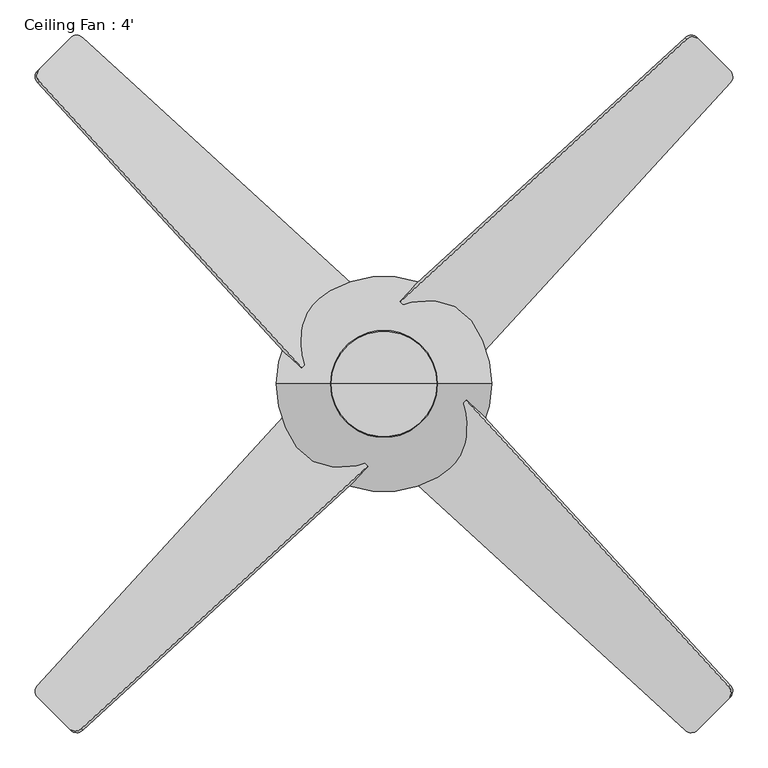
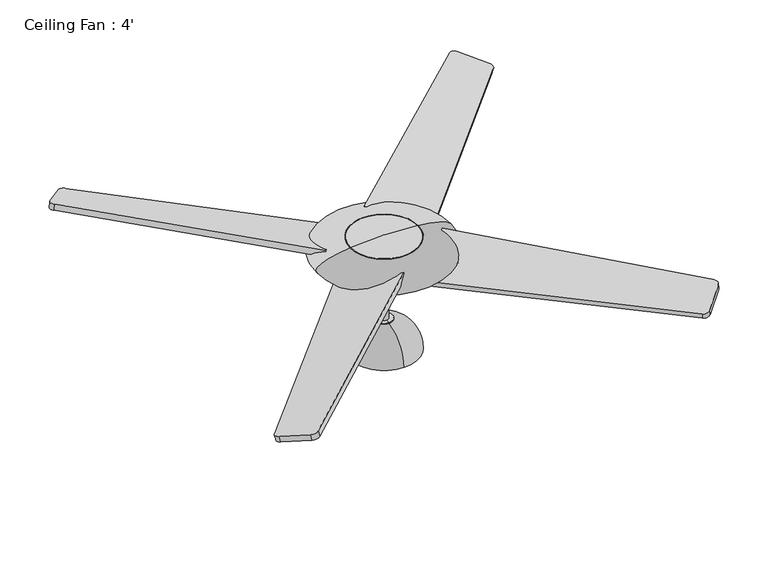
"""IFC4 building model written with IfcOpenShell, lengths in millimetres: light fixture geometry, Ceiling Fan : 4'."""

from ifc_helpers import new_model, si_unit, point, frame, frame_2d, origin, origin_2d, place, context, project, spatial, polyline, circle_curve, ellipse_curve, trimmed, segment, composite_curve, outline, extrude, source, transform, mapped, element, save
from ifc_brep_helpers import plane_surface, cylinder_surface, revolved_surface, advanced_brep


def ceiling_fan_4_278a9ec8(model_context):
    return source(origin(), model_context, "Body", "SolidModel", [
        extrude(outline(composite_curve([segment(trimmed(circle_curve(frame_2d((76.7615117, -12.7)), 12.7), [point((76.7615117, 0.0))], [point((89.4485376, -12.1260879))], False, "CARTESIAN"), True, "CONTINUOUS"), segment(polyline([(89.4485376, -12.1260879), (114.3000001, -561.4978402), (-25.4, -561.4978402), (-0.5485375, -12.1260879)]), True, "CONTINUOUS"), segment(trimmed(circle_curve(frame_2d((12.1384884, -12.7)), 12.7), [point((-0.5485375, -12.1260879))], [point((12.1384884, 0.0))], False, "CARTESIAN"), True, "CONTINUOUS"), segment(polyline([(12.1384884, 0.0), (76.7615117, 0.0)]), True, "CONTINUOUS")], self_intersect=False)), frame((-498.5568431, 435.3897935, 237.8624912), z_axis=(0.17106461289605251, 0.17106461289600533, 0.9702957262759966), x_axis=(0.6861026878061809, 0.6861026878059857, -0.24192189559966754)), (0.0, 0.0, 1.0), 12.7),
        extrude(outline(composite_curve([segment(trimmed(circle_curve(frame_2d((76.7615117, -12.7)), 12.7), [point((76.7615117, 0.0))], [point((89.4485376, -12.1260879))], False, "CARTESIAN"), True, "CONTINUOUS"), segment(polyline([(89.4485376, -12.1260879), (114.3000001, -561.4978402), (-25.4, -561.4978402), (-0.5485375, -12.1260879)]), True, "CONTINUOUS"), segment(trimmed(circle_curve(frame_2d((12.1384884, -12.7)), 12.7), [point((-0.5485375, -12.1260879))], [point((12.1384884, 0.0))], False, "CARTESIAN"), True, "CONTINUOUS"), segment(polyline([(12.1384884, 0.0), (76.7615117, 0.0)]), True, "CONTINUOUS")], self_intersect=False)), frame((-435.3897935, -498.5568431, 237.8624912), z_axis=(-0.17106461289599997, 0.17106461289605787, 0.9702957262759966), x_axis=(-0.6861026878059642, 0.6861026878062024, -0.24192189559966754)), (0.0, 0.0, 1.0), 12.7),
        extrude(outline(composite_curve([segment(trimmed(circle_curve(frame_2d((76.7615117, -12.7)), 12.7), [point((76.7615117, 0.0))], [point((89.4485376, -12.1260879))], False, "CARTESIAN"), True, "CONTINUOUS"), segment(polyline([(89.4485376, -12.1260879), (114.3000001, -561.4978402), (-25.4, -561.4978402), (-0.5485375, -12.1260879)]), True, "CONTINUOUS"), segment(trimmed(circle_curve(frame_2d((12.1384884, -12.7)), 12.7), [point((-0.5485375, -12.1260879))], [point((12.1384884, 0.0))], False, "CARTESIAN"), True, "CONTINUOUS"), segment(polyline([(12.1384884, 0.0), (76.7615117, 0.0)]), True, "CONTINUOUS")], self_intersect=False)), frame((498.5568431, -435.3897935, 237.8624912), z_axis=(-0.1710646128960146, -0.17106461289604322, 0.9702957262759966), x_axis=(-0.6861026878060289, -0.6861026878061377, -0.24192189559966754)), (0.0, 0.0, 1.0), 12.7),
        extrude(outline(composite_curve([segment(trimmed(circle_curve(frame_2d((76.7615117, -12.7)), 12.7), [point((76.7615117, 0.0))], [point((89.4485376, -12.1260879))], False, "CARTESIAN"), True, "CONTINUOUS"), segment(polyline([(89.4485376, -12.1260879), (114.3000001, -561.4978402), (-25.4, -561.4978402), (-0.5485375, -12.1260879)]), True, "CONTINUOUS"), segment(trimmed(circle_curve(frame_2d((12.1384884, -12.7)), 12.7), [point((-0.5485375, -12.1260879))], [point((12.1384884, 0.0))], False, "CARTESIAN"), True, "CONTINUOUS"), segment(polyline([(12.1384884, 0.0), (76.7615117, 0.0)]), True, "CONTINUOUS")], self_intersect=False)), frame((435.3897935, 498.5568431, 237.8624912), z_axis=(0.1710646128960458, -0.17106461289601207, 0.9702957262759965), x_axis=(0.686102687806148, -0.6861026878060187, -0.2419218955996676)), (0.0, 0.0, 1.0), 12.7),
        advanced_brep(
        [(74.6125, 0.0, 254.0), (-74.6125, 0.0, 254.0), (0.0, 0.0, 254.0), (74.6125, 0.0, 262.6366089), (-74.6125, 0.0, 262.6366089), (0.0, 0.0, 266.7)],
        [
            (0, 1, circle_curve(frame((0.0, 0.0, 254.0), z_axis=(0.0, 0.0, -1.0), x_axis=(-1.0, 0.0, 0.0)), 74.6125)),
            (1, 2),
            (2, 0),
            (1, 0, circle_curve(frame((0.0, 0.0, 254.0), z_axis=(0.0, 0.0, -1.0), x_axis=(-1.0, 0.0, 0.0)), 74.6125)),
            (3, 4, circle_curve(frame((0.0, 0.0, 262.6366089), z_axis=(0.0, 0.0, -1.0), x_axis=(-1.0, 0.0, 0.0)), 74.6125)),
            (4, 1),
            (0, 3),
            (4, 3, circle_curve(frame((0.0, 0.0, 262.6366089), z_axis=(0.0, 0.0, -1.0), x_axis=(-1.0, 0.0, 0.0)), 74.6125)),
            (5, 4, circle_curve(frame((-5.3748873, 0.0, -321.6594058), z_axis=(0.0, -1.0, 0.0), x_axis=(1.0, 0.0, 0.0)), 588.3839561)),
            (3, 5, circle_curve(frame((5.3748873, 0.0, -321.6594058), z_axis=(0.0, -1.0, 0.0), x_axis=(-1.0, 0.0, 0.0)), 588.3839561)),
        ],
        [
            plane_surface(frame((0.0, 0.0, 254.0), z_axis=(0.0, 0.0, -1.0), x_axis=(-1.0, 0.0, 0.0))),
            cylinder_surface(frame((0.0, 0.0, 215.9), z_axis=(0.0, 0.0, 1.0), x_axis=(-1.0, 0.0, 0.0)), 74.6125),
            revolved_surface(trimmed(ellipse_curve(frame((-5.3748873, 0.0, -321.6594058), z_axis=(0.0, 1.0, 0.0), x_axis=(1.0, 0.0, 0.0)), 588.3839561, 588.3839561), [point((-74.6125, 0.0, 262.6366089))], [point((0.0, 0.0, 266.7))], True, "CARTESIAN"), (0.0, 0.0, 215.9), (0.0, 0.0, 1.0)),
        ],
        [
            (0, [[1, 2, 3]]),
            (0, [[4, -3, -2]]),
            (1, [[5, 6, -1, 7]]),
            (1, [[8, -7, -4, -6]]),
            (2, [[9, -5, 10]]),
            (2, [[-10, -8, -9]]),
        ],
    ),
        advanced_brep(
        [(76.2, 0.0, 262.4463066), (-76.2, 0.0, 262.4463066), (-19.05, 0.0, 203.4490235), (19.05, 0.0, 203.4490235), (76.2, 0.0, 254.0), (-76.2, 0.0, 254.0), (0.0, 0.0, 254.0), (19.05, 0.0, 201.6125), (-19.05, 0.0, 201.6125), (0.0, 0.0, 201.6125)],
        [
            (0, 1, circle_curve(frame((0.0, 0.0, 262.4463066), z_axis=(0.0, 0.0, -1.0), x_axis=(-1.0, 0.0, 0.0)), 76.2)),
            (1, 2, ellipse_curve(frame((0.0, 0.0, 234.95), z_axis=(0.0, -1.0, 0.0), x_axis=(1.0, 0.0, 0.0)), 152.4, 31.75)),
            (2, 3, circle_curve(frame((0.0, 0.0, 203.4490235), z_axis=(0.0, 0.0, 1.0), x_axis=(-1.0, 0.0, 0.0)), 19.05)),
            (3, 0, ellipse_curve(frame((0.0, 0.0, 234.95), z_axis=(0.0, -1.0, 0.0), x_axis=(-1.0, 0.0, 0.0)), 152.4, 31.75)),
            (1, 0, circle_curve(frame((0.0, 0.0, 262.4463066), z_axis=(0.0, 0.0, -1.0), x_axis=(-1.0, 0.0, 0.0)), 76.2)),
            (3, 2, circle_curve(frame((0.0, 0.0, 203.4490235), z_axis=(0.0, 0.0, 1.0), x_axis=(-1.0, 0.0, 0.0)), 19.05)),
            (4, 5, circle_curve(frame((0.0, 0.0, 254.0), z_axis=(0.0, 0.0, -1.0), x_axis=(-1.0, 0.0, 0.0)), 76.2)),
            (5, 1),
            (0, 4),
            (5, 4, circle_curve(frame((0.0, 0.0, 254.0), z_axis=(0.0, 0.0, -1.0), x_axis=(-1.0, 0.0, 0.0)), 76.2)),
            (6, 5),
            (4, 6),
            (7, 8, circle_curve(frame((0.0, 0.0, 201.6125), z_axis=(0.0, 0.0, -1.0), x_axis=(-1.0, 0.0, 0.0)), 19.05)),
            (8, 9),
            (9, 7),
            (8, 7, circle_curve(frame((0.0, 0.0, 201.6125), z_axis=(0.0, 0.0, -1.0), x_axis=(-1.0, 0.0, 0.0)), 19.05)),
            (2, 8),
            (7, 3),
        ],
        [
            revolved_surface(trimmed(ellipse_curve(frame((0.0, 0.0, 234.95), z_axis=(0.0, 1.0, 0.0), x_axis=(1.0, 0.0, 0.0)), 152.4, 31.75), [point((-19.05, 0.0, 203.4490235))], [point((-76.2, 0.0, 262.4463066))], True, "CARTESIAN"), (0.0, 0.0, 222.25), (0.0, 0.0, 1.0)),
            revolved_surface(polyline([(-76.2, 0.0, 262.4463066), (-76.2, 0.0, 254.0)]), (0.0, 0.0, 222.25), (0.0, 0.0, 1.0)),
            plane_surface(frame((0.0, 0.0, 254.0), z_axis=(0.0, 0.0, 1.0), x_axis=(-1.0, 0.0, 0.0))),
            plane_surface(frame((0.0, 0.0, 201.6125), z_axis=(0.0, 0.0, -1.0), x_axis=(-1.0, 0.0, 0.0))),
            cylinder_surface(frame((0.0, 0.0, 222.25), z_axis=(0.0, 0.0, 1.0), x_axis=(-1.0, 0.0, 0.0)), 19.05),
        ],
        [
            (0, [[1, 2, 3, 4]]),
            (0, [[5, -4, 6, -2]]),
            (1, [[7, 8, -1, 9]]),
            (1, [[10, -9, -5, -8]]),
            (2, [[11, -7, 12]]),
            (2, [[-12, -10, -11]]),
            (3, [[13, 14, 15]]),
            (3, [[16, -15, -14]]),
            (4, [[-3, 17, -13, 18]]),
            (4, [[-6, -18, -16, -17]]),
        ],
    ),
        extrude(outline(composite_curve([segment(trimmed(circle_curve(origin_2d(), 9.525), [point((-9.525, 0.0))], [point((9.525, 0.0))], False, "CARTESIAN"), True, "CONTINUOUS"), segment(trimmed(circle_curve(origin_2d(), 9.525), [point((9.525, 0.0))], [point((-9.525, 0.0))], False, "CARTESIAN"), True, "CONTINUOUS")], self_intersect=False)), frame((0.0, 0.0, 71.4375), z_axis=(0.0, 0.0, 1.0), x_axis=(1.0, 0.0, 0.0)), (0.0, 0.0, 1.0), 131.7625),
        advanced_brep(
        [(0.0, -19.05, 68.6857518), (0.0, 19.05, 68.6857518), (0.0, 76.2, 0.0), (0.0, -76.2, 0.0), (0.0, -19.05, 71.4375), (0.0, 19.05, 71.4375), (0.0, 0.0, 71.4375), (0.0, 0.0, 0.0)],
        [
            (0, 1, circle_curve(frame((0.0, 0.0, 68.6857518), z_axis=(0.0, 0.0, -1.0), x_axis=(0.0, 1.0, 0.0)), 19.05)),
            (1, 2, circle_curve(frame((0.0, 6.35, 0.0), z_axis=(-1.0, 0.0, 0.0), x_axis=(0.0, 1.0, 0.0)), 69.85)),
            (2, 3, circle_curve(frame((0.0, 0.0, 0.0), z_axis=(0.0, 0.0, 1.0), x_axis=(0.0, 1.0, 0.0)), 76.2)),
            (3, 0, circle_curve(frame((0.0, -6.35, 0.0), z_axis=(-1.0, 0.0, 0.0), x_axis=(0.0, -1.0, 0.0)), 69.85)),
            (1, 0, circle_curve(frame((0.0, 0.0, 68.6857518), z_axis=(0.0, 0.0, -1.0), x_axis=(0.0, 1.0, 0.0)), 19.05)),
            (3, 2, circle_curve(frame((0.0, 0.0, 0.0), z_axis=(0.0, 0.0, 1.0), x_axis=(0.0, 1.0, 0.0)), 76.2)),
            (4, 5, circle_curve(frame((0.0, 0.0, 71.4375), z_axis=(0.0, 0.0, -1.0), x_axis=(0.0, 1.0, 0.0)), 19.05)),
            (5, 1),
            (0, 4),
            (5, 4, circle_curve(frame((0.0, 0.0, 71.4375), z_axis=(0.0, 0.0, -1.0), x_axis=(0.0, 1.0, 0.0)), 19.05)),
            (6, 5),
            (4, 6),
            (2, 7),
            (7, 3),
        ],
        [
            revolved_surface(trimmed(ellipse_curve(frame((0.0, 6.35, 0.0), z_axis=(1.0, 0.0, 0.0), x_axis=(0.0, 1.0, 0.0)), 69.85, 69.85), [point((0.0, 76.2, 0.0))], [point((0.0, 19.05, 68.6857518))], True, "CARTESIAN"), (0.0, 0.0, 60.2408298), (0.0, 0.0, 1.0)),
            cylinder_surface(frame((0.0, 0.0, 60.2408298), z_axis=(0.0, 0.0, 1.0), x_axis=(0.0, 1.0, 0.0)), 19.05),
            plane_surface(frame((0.0, 0.0, 71.4375), z_axis=(0.0, 0.0, 1.0), x_axis=(0.0, 1.0, 0.0))),
            plane_surface(frame((0.0, 0.0, 0.0), z_axis=(0.0, 0.0, -1.0), x_axis=(0.0, 1.0, 0.0))),
        ],
        [
            (0, [[1, 2, 3, 4]]),
            (0, [[5, -4, 6, -2]]),
            (1, [[7, 8, -1, 9]]),
            (1, [[10, -9, -5, -8]]),
            (2, [[11, -7, 12]]),
            (2, [[-12, -10, -11]]),
            (3, [[-3, 13, 14]]),
            (3, [[-6, -14, -13]]),
        ],
    ),
    ])


if __name__ == "__main__":
    model = new_model("IFC4")
    model_context = context("Model", 3, world=origin())
    ifc_project = project(units=[si_unit("LENGTHUNIT", "METRE", prefix="MILLI")], contexts=[model_context])
    site = spatial("IfcSite", under=ifc_project)
    building = spatial("IfcBuilding", under=site)
    placement = place(None, origin())
    ceiling_fan_4_shape = ceiling_fan_4_278a9ec8(model_context)
    element("IfcLightFixture", 1, ObjectType="Ceiling Fan : 4'", at=placement, inside=building, context=model_context, shape_type="MappedRepresentation", body=[
        mapped(ceiling_fan_4_shape, transform((0.0, 0.0, 0.0), x_axis=(1.0, 0.0, 0.0), y_axis=(0.0, 1.0, 0.0), z_axis=(0.0, 0.0, 1.0))),
    ])
    save(model, "model.ifc")
